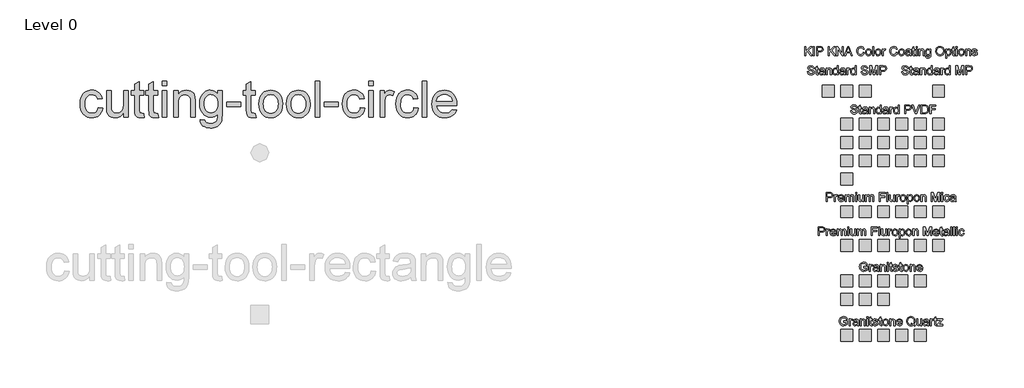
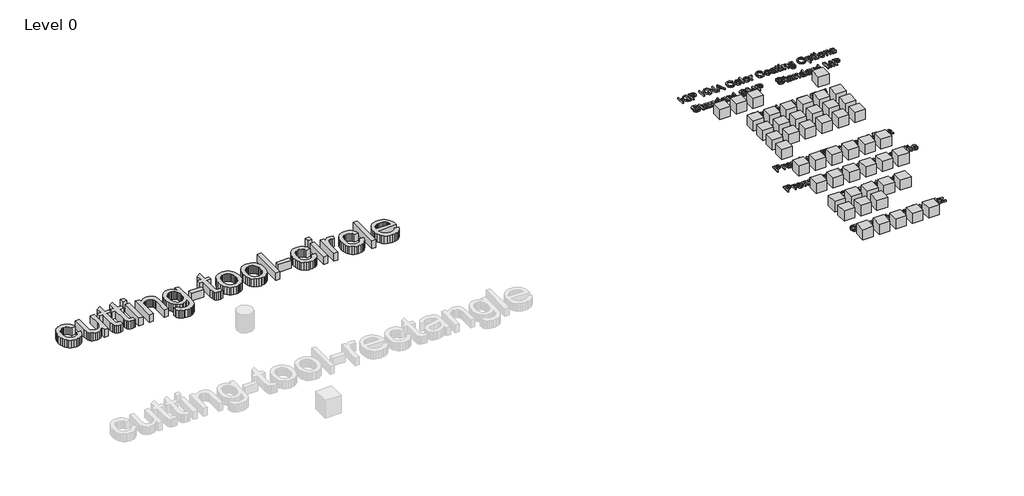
# One storey, part 5 of 5: 50 proxies.
"""IFC4 building model written with IfcOpenShell, lengths in millimetres."""

from ifc_helpers import new_model, si_unit, origin, origin_with_axes, place, context, project, spatial, polyline, outline, extrude, transform, mapped, element, save
from components import ks_color_sample_ks_color_sample_0243efec, r19_kna_color_range_kingspan_quadcore_4278cd54, r19_kna_color_range_kingspan_quadcore_c5814d20, r19_kna_color_range_kingspan_quadcore_91b79b7c

model = new_model("IFC4")

# Units and contexts
model_context = context("Model", 3, world=origin())
ifc_project = project(units=[si_unit("LENGTHUNIT", "METRE", prefix="MILLI")], contexts=[model_context])

# Site, building, storey
site = spatial("IfcSite", under=ifc_project)
building = spatial("IfcBuilding", under=site)
storey = spatial("IfcBuildingStorey", under=building, Name="Level 0", Elevation=0.0)

# Proxies
placement = place(None, origin())
element("IfcBuildingElementProxy", 1, Name="24\" Arial", ObjectType="24\" Arial", at=placement, inside=storey, context=model_context, shape_type="SweptSolid", body=[
    extrude(outline(polyline([(-159.9891887, 13357.6968663), (-83.8474152, 13348.1791446), (-92.1289484, 13312.2506747), (-105.076396, 13280.4583241), (-122.6897579, 13252.8020927), (-144.9690342, 13229.2819807), (-170.9754651, 13210.5114348), (-199.7702911, 13197.1039021), (-231.3535121, 13189.0593824), (-265.7251281, 13186.3778759), (-308.429398, 13190.1189726), (-346.718709, 13201.3422625), (-380.5930612, 13220.0477458), (-410.0524547, 13246.2354225), (-433.8978795, 13279.4126759), (-450.9303258, 13319.0868898), (-461.1497935, 13365.2580641), (-464.5562828, 13417.9261989), (-458.7378318, 13485.684198), (-451.4647682, 13516.1752976), (-441.282479, 13544.4077973), (-428.1212545, 13569.8147233), (-411.9113847, 13591.829102), (-392.6528697, 13610.4509335), (-370.3457095, 13625.6802176), (-345.9983736, 13637.5216018), (-320.6193315, 13645.9797334), (-294.2085833, 13651.0546124), (-266.7661289, 13652.7462387), (-232.9847232, 13650.4225762), (-202.428561, 13643.4515886), (-175.0976424, 13631.833276), (-150.9919674, 13615.5676383), (-130.5205006, 13595.0264616), (-114.0922066, 13570.5815319), (-101.7070854, 13542.2328491), (-93.3651369, 13509.9804133), (-169.5069104, 13500.4626916), (-183.3187605, 13533.6817711), (-204.8265808, 13557.4946646), (-232.8406561, 13571.827015), (-266.1712713, 13576.6044652), (-292.0429298, 13574.2529187), (-315.3771489, 13567.1982793), (-336.1739285, 13555.4405469), (-354.4332686, 13538.9797216), (-369.3000614, 13517.4347227), (-379.9191991, 13490.4244696), (-386.2906817, 13457.9489621), (-388.4145093, 13420.0082005), (-386.337155, 13381.4958179), (-380.1050921, 13348.6438771), (-369.7183206, 13321.4523783), (-355.1768406, 13299.9213214), (-337.2799918, 13283.5580899), (-316.8271143, 13271.8700674), (-293.818208, 13264.8572539), (-268.253273, 13262.5196494), (-228.8253673, 13268.3566897), (-211.7743317, 13275.65299), (-196.4985743, 13285.8678104), (-183.4256489, 13299.1126868), (-172.9831096, 13315.4991549), (-165.1709562, 13335.0272147), (-159.9891887, 13357.6968663)])), origin_with_axes(), (0.0, 0.0, 1.0), 152.4),
    extrude(outline(polyline([(268.3082873, 13195.8955976), (268.3082873, 13272.7809431), (240.7589444, 13234.9796012), (208.6738123, 13207.9786427), (172.052891, 13191.7780676), (130.8961804, 13186.3778759), (93.8105266, 13190.1700931), (59.2901961, 13201.5467448), (30.3280665, 13218.648901), (9.9170149, 13239.6176316), (-3.820478, 13265.0849728), (-12.7619313, 13295.6829609), (-17.2233634, 13366.471016), (-17.2233634, 13643.228517), (58.9184101, 13643.228517), (58.9184101, 13402.3111867), (60.0709467, 13354.1277207), (63.5285566, 13324.6822692), (74.6263688, 13298.787374), (93.6432229, 13279.1013052), (119.3150464, 13266.6650633), (150.377767, 13262.5196494), (183.2250604, 13266.7580098), (213.9531736, 13279.4730912), (239.2903897, 13299.4937675), (255.964992, 13325.6489128), (265.2224635, 13361.4704942), (268.3082873, 13410.4904788), (268.3082873, 13643.228517), (344.4500608, 13643.228517), (344.4500608, 13195.8955976), (268.3082873, 13195.8955976)])), origin_with_axes(), (0.0, 0.0, 1.0), 152.4),
    extrude(outline(polyline([(610.9462681, 13259.396647), (620.4639898, 13193.6648816), (590.3121449, 13188.1996273), (563.5063741, 13186.3778759), (526.9598099, 13189.5380569), (499.7078959, 13199.0186), (480.4493809, 13213.6297899), (467.883014, 13232.1819115), (460.9677943, 13264.043972), (458.6627211, 13318.5849787), (458.6627211, 13567.0867435), (401.556391, 13567.0867435), (401.556391, 13643.228517), (458.6627211, 13643.228517), (458.6627211, 13751.9387444), (534.8044946, 13796.7017792), (534.8044946, 13643.228517), (610.9462681, 13643.228517), (610.9462681, 13567.0867435), (534.8044946, 13567.0867435), (534.8044946, 13320.8156948), (538.8197835, 13281.5550928), (551.8322936, 13267.6502963), (562.81857, 13263.8023111), (577.7829566, 13262.5196494), (610.9462681, 13259.396647)])), origin_with_axes(), (0.0, 0.0, 1.0), 152.4),
    extrude(outline(polyline([(848.8893104, 13259.396647), (858.4070321, 13193.6648816), (828.2551872, 13188.1996273), (801.4494163, 13186.3778759), (764.9028522, 13189.5380569), (737.6509381, 13199.0186), (718.3924231, 13213.6297899), (705.8260562, 13232.1819115), (698.9108366, 13264.043972), (696.6057633, 13318.5849787), (696.6057633, 13567.0867435), (639.4994332, 13567.0867435), (639.4994332, 13643.228517), (696.6057633, 13643.228517), (696.6057633, 13751.9387444), (772.7475369, 13796.7017792), (772.7475369, 13643.228517), (848.8893104, 13643.228517), (848.8893104, 13567.0867435), (772.7475369, 13567.0867435), (772.7475369, 13320.8156948), (776.7628257, 13281.5550928), (789.7753358, 13267.6502963), (800.7616122, 13263.8023111), (815.7259989, 13262.5196494), (848.8893104, 13259.396647)])), origin_with_axes(), (0.0, 0.0, 1.0), 152.4),
    extrude(outline(polyline([(925.0310839, 13728.8880122), (925.0310839, 13805.0297857), (1001.1728574, 13805.0297857), (1001.1728574, 13728.8880122), (925.0310839, 13728.8880122)])), origin_with_axes(), (0.0, 0.0, 1.0), 152.4),
    extrude(outline(polyline([(925.0310839, 13195.8955976), (925.0310839, 13643.228517), (1001.1728574, 13643.228517), (1001.1728574, 13195.8955976), (925.0310839, 13195.8955976)])), origin_with_axes(), (0.0, 0.0, 1.0), 152.4),
    extrude(outline(polyline([(1115.3855177, 13195.8955976), (1115.3855177, 13643.228517), (1191.5272912, 13643.228517), (1191.5272912, 13580.7684684), (1217.9798653, 13612.2587429), (1249.7489793, 13634.7517961), (1286.8346332, 13648.247628), (1329.2368269, 13652.7462387), (1366.7686239, 13649.1213251), (1401.14024, 13638.2465845), (1429.8049408, 13621.4790358), (1450.2159924, 13600.1756978), (1464.0650211, 13574.3923384), (1473.043653, 13544.1847257), (1477.0589419, 13470.571097), (1477.0589419, 13195.8955976), (1400.9171684, 13195.8955976), (1400.9171684, 13460.3098033), (1398.7236309, 13499.681941), (1392.1430187, 13527.6774271), (1380.0042057, 13547.735282), (1361.136066, 13563.2945262), (1336.9513865, 13573.2769804), (1308.8629539, 13576.6044652), (1285.7425118, 13574.7362405), (1264.2672228, 13569.1315665), (1244.4370868, 13559.7904432), (1226.2521039, 13546.7128705), (1211.0599984, 13528.4117045), (1200.2084944, 13503.3998011), (1193.697592, 13471.6771603), (1191.5272912, 13433.2437822), (1191.5272912, 13195.8955976), (1115.3855177, 13195.8955976)])), origin_with_axes(), (0.0, 0.0, 1.0), 152.4),
    extrude(outline(polyline([(1562.7184371, 13157.8247108), (1638.8602106, 13148.3069891), (1647.2625743, 13124.5126849), (1663.5468012, 13108.1541008), (1695.5575761, 13095.4390194), (1737.4578587, 13091.200659), (1782.1465364, 13095.9966984), (1800.1967468, 13101.9917477), (1815.3842051, 13110.3848168), (1838.4349373, 13133.435549), (1852.5628054, 13164.2194301), (1856.6896301, 13196.973777), (1857.7678095, 13253.0019277), (1832.4305933, 13228.0179083), (1804.1562678, 13210.1721801), (1772.9448328, 13199.4647432), (1738.7962884, 13195.8955976), (1697.0493675, 13200.0503062), (1660.2936737, 13212.5144319), (1628.529207, 13233.2879749), (1601.7559675, 13262.370935), (1580.5130447, 13297.2630514), (1565.3395284, 13335.4640633), (1556.2354187, 13376.9739706), (1553.2007154, 13421.7927733), (1558.6473804, 13483.267589), (1574.9873752, 13539.7976508), (1587.0983043, 13565.2882287), (1601.6444317, 13587.7022774), (1618.6257574, 13607.0397969), (1638.0422814, 13623.3007872), (1659.582633, 13636.1831722), (1682.9354413, 13645.3848758), (1708.1007064, 13650.905898), (1735.0784283, 13652.7462387), (1770.6862328, 13648.5822354), (1803.0037312, 13636.0902257), (1832.0309234, 13615.2702095), (1857.7678095, 13586.1221869), (1857.7678095, 13643.228517), (1933.909583, 13643.228517), (1933.909583, 13257.0172166), (1928.7045789, 13167.8443436), (1922.1983239, 13134.6763848), (1913.0895668, 13109.1207444), (1901.1598834, 13088.5098578), (1886.1908494, 13070.1761605), (1868.1824649, 13054.1196525), (1847.1347298, 13040.3403337), (1823.261421, 13029.2797001), (1796.7763156, 13021.3792475), (1767.6794135, 13016.638976), (1735.9707147, 13015.0588855), (1698.6666366, 13017.2849542), (1665.1268918, 13023.9631603), (1635.3514802, 13035.0935037), (1609.3404019, 13050.6759846), (1588.3298454, 13070.7291922), (1573.5559991, 13095.2717157), (1565.018863, 13124.3035553), (1562.7184371, 13157.8247108)]), holes=[polyline([(1629.3424889, 13426.9977774), (1631.37337, 13389.3497972), (1637.4660131, 13357.1577766), (1647.6204183, 13330.4217156), (1661.8365856, 13309.1416142), (1679.1199875, 13292.9085079), (1698.4760963, 13281.3134319), (1719.904912, 13274.3563863), (1743.4064348, 13272.0373711), (1766.6755913, 13274.3424443), (1788.0021659, 13281.257664), (1807.3861587, 13292.7830301), (1824.8275696, 13308.9185426), (1839.2389245, 13329.9895144), (1849.5327495, 13356.3212581), (1855.7090445, 13387.9137737), (1857.7678095, 13424.7670613), (1855.6486293, 13460.0820843), (1849.2910886, 13490.7776663), (1838.6951875, 13516.8538071), (1823.860926, 13538.3105068), (1806.0430817, 13555.0641136), (1786.4964326, 13567.0309756), (1765.2209786, 13574.2110928), (1742.2167196, 13576.6044652), (1719.5981886, 13574.2482714), (1698.7363465, 13567.17969), (1679.6311932, 13555.398721), (1662.2827288, 13538.9053644), (1647.8713739, 13517.7739774), (1637.5775489, 13492.0789173), (1631.4012539, 13461.8201839), (1629.3424889, 13426.9977774)])]), origin_with_axes(), (0.0, 0.0, 1.0), 152.4),
    extrude(outline(polyline([(2010.0513565, 13376.7323097), (2010.0513565, 13452.8740832), (2247.9943987, 13452.8740832), (2247.9943987, 13376.7323097), (2010.0513565, 13376.7323097)])), origin_with_axes(), (0.0, 0.0, 1.0), 152.4),
    extrude(outline(polyline([(2495.4551627, 13259.396647), (2504.9728844, 13193.6648816), (2474.8210395, 13188.1996273), (2448.0152686, 13186.3778759), (2411.4687045, 13189.5380569), (2384.2167904, 13199.0186), (2364.9582754, 13213.6297899), (2352.3919085, 13232.1819115), (2345.4766889, 13264.043972), (2343.1716156, 13318.5849787), (2343.1716156, 13567.0867435), (2286.0652855, 13567.0867435), (2286.0652855, 13643.228517), (2343.1716156, 13643.228517), (2343.1716156, 13751.9387444), (2419.3133892, 13796.7017792), (2419.3133892, 13643.228517), (2495.4551627, 13643.228517), (2495.4551627, 13567.0867435), (2419.3133892, 13567.0867435), (2419.3133892, 13320.8156948), (2423.328678, 13281.5550928), (2436.3411881, 13267.6502963), (2447.3274645, 13263.8023111), (2462.2918512, 13262.5196494), (2495.4551627, 13259.396647)])), origin_with_axes(), (0.0, 0.0, 1.0), 152.4),
    extrude(outline(polyline([(2552.5614928, 13419.5620573), (2556.6790228, 13477.4956113), (2569.0316128, 13527.4171769), (2589.6192627, 13569.3267541), (2618.4419726, 13603.224343), (2647.4598702, 13624.8901724), (2679.4892344, 13640.3657648), (2714.5300652, 13649.6511202), (2752.5823627, 13652.7462387), (2794.5895338, 13648.9772581), (2832.5721214, 13637.6703162), (2866.5301254, 13618.8254132), (2896.4635461, 13592.4425489), (2920.8945338, 13559.4140098), (2938.3452393, 13520.6320823), (2948.8156627, 13476.0967664), (2952.3058038, 13425.8080621), (2950.7628919, 13385.0510215), (2946.1341561, 13348.885538), (2938.4195965, 13317.3116117), (2927.6192131, 13290.3292425), (2913.8677783, 13267.0229074), (2897.3000646, 13246.4770834), (2877.9160718, 13228.6917704), (2855.7158001, 13213.6669685), (2831.5636518, 13201.7279905), (2806.3240295, 13193.2001491), (2779.9969331, 13188.0834442), (2752.5823627, 13186.3778759), (2709.9617447, 13190.1329145), (2671.6259604, 13201.3980304), (2637.5750098, 13220.1732236), (2607.8088929, 13246.4584941), (2583.6381554, 13279.8076986), (2566.3733428, 13319.7746939), (2556.0144553, 13366.3594802), (2552.5614928, 13419.5620573)]), holes=[polyline([(2628.7032663, 13419.7107717), (2630.9060984, 13382.7784796), (2637.5145946, 13350.8002359), (2648.528755, 13323.7760408), (2663.9485795, 13301.7058942), (2682.7051833, 13284.5619121), (2703.7296818, 13272.3162106), (2727.022075, 13264.9687897), (2752.5823627, 13262.5196494), (2778.0125253, 13264.9827317), (2801.211972, 13272.3719785), (2822.1807026, 13284.6873899), (2840.9187171, 13301.9289658), (2856.3385416, 13324.2175367), (2867.352702, 13351.673933), (2873.9611982, 13384.2981549), (2876.1640303, 13422.0902021), (2873.9472562, 13457.8513683), (2867.2969341, 13488.9930934), (2856.2130638, 13515.5153775), (2840.6956455, 13537.4182204), (2821.8879211, 13554.5622025), (2800.9331325, 13566.807904), (2777.8312797, 13574.1553249), (2752.5823627, 13576.6044652), (2727.022075, 13574.1646195), (2703.7296818, 13566.8450826), (2682.7051833, 13554.6458543), (2663.9485795, 13537.5669348), (2648.528755, 13515.5618507), (2637.5145946, 13488.5841288), (2630.9060984, 13456.6337692), (2628.7032663, 13419.7107717)])]), origin_with_axes(), (0.0, 0.0, 1.0), 152.4),
    extrude(outline(polyline([(3018.9298556, 13419.5620573), (3023.0473856, 13477.4956113), (3035.3999756, 13527.4171769), (3055.9876255, 13569.3267541), (3084.8103354, 13603.224343), (3113.828233, 13624.8901724), (3145.8575972, 13640.3657648), (3180.898428, 13649.6511202), (3218.9507255, 13652.7462387), (3260.9578966, 13648.9772581), (3298.9404841, 13637.6703162), (3332.8984882, 13618.8254132), (3362.8319088, 13592.4425489), (3387.2628966, 13559.4140098), (3404.7136021, 13520.6320823), (3415.1840255, 13476.0967664), (3418.6741666, 13425.8080621), (3417.1312547, 13385.0510215), (3412.5025189, 13348.885538), (3404.7879593, 13317.3116117), (3393.9875759, 13290.3292425), (3380.2361411, 13267.0229074), (3363.6684274, 13246.4770834), (3344.2844346, 13228.6917704), (3322.0841629, 13213.6669685), (3297.9320146, 13201.7279905), (3272.6923923, 13193.2001491), (3246.3652959, 13188.0834442), (3218.9507255, 13186.3778759), (3176.3301075, 13190.1329145), (3137.9943232, 13201.3980304), (3103.9433726, 13220.1732236), (3074.1772557, 13246.4584941), (3050.0065182, 13279.8076986), (3032.7417056, 13319.7746939), (3022.3828181, 13366.3594802), (3018.9298556, 13419.5620573)]), holes=[polyline([(3095.0716291, 13419.7107717), (3097.2744612, 13382.7784796), (3103.8829574, 13350.8002359), (3114.8971178, 13323.7760408), (3130.3169423, 13301.7058942), (3149.0735461, 13284.5619121), (3170.0980446, 13272.3162106), (3193.3904378, 13264.9687897), (3218.9507255, 13262.5196494), (3244.3808881, 13264.9827317), (3267.5803347, 13272.3719785), (3288.5490653, 13284.6873899), (3307.2870799, 13301.9289658), (3322.7069044, 13324.2175367), (3333.7210648, 13351.673933), (3340.329561, 13384.2981549), (3342.5323931, 13422.0902021), (3340.315619, 13457.8513683), (3333.6652969, 13488.9930934), (3322.5814266, 13515.5153775), (3307.0640083, 13537.4182204), (3288.2562839, 13554.5622025), (3267.3014952, 13566.807904), (3244.1996425, 13574.1553249), (3218.9507255, 13576.6044652), (3193.3904378, 13574.1646195), (3170.0980446, 13566.8450826), (3149.0735461, 13554.6458543), (3130.3169423, 13537.5669348), (3114.8971178, 13515.5618507), (3103.8829574, 13488.5841288), (3097.2744612, 13456.6337692), (3095.0716291, 13419.7107717)])]), origin_with_axes(), (0.0, 0.0, 1.0), 152.4),
    extrude(outline(polyline([(3504.3336618, 13195.8955976), (3504.3336618, 13805.0297857), (3580.4754353, 13805.0297857), (3580.4754353, 13195.8955976), (3504.3336618, 13195.8955976)])), origin_with_axes(), (0.0, 0.0, 1.0), 152.4),
    extrude(outline(polyline([(3656.6172088, 13376.7323097), (3656.6172088, 13452.8740832), (3894.5602511, 13452.8740832), (3894.5602511, 13376.7323097), (3656.6172088, 13376.7323097)])), origin_with_axes(), (0.0, 0.0, 1.0), 152.4),
    extrude(outline(polyline([(4265.7513969, 13357.6968663), (4341.8931705, 13348.1791446), (4333.6116372, 13312.2506747), (4320.6641897, 13280.4583241), (4303.0508278, 13252.8020927), (4280.7715515, 13229.2819807), (4254.7651205, 13210.5114348), (4225.9702946, 13197.1039021), (4194.3870736, 13189.0593824), (4160.0154576, 13186.3778759), (4117.3111877, 13190.1189726), (4079.0218767, 13201.3422625), (4045.1475244, 13220.0477458), (4015.688131, 13246.2354225), (3991.8427062, 13279.4126759), (3974.8102599, 13319.0868898), (3964.5907921, 13365.2580641), (3961.1843029, 13417.9261989), (3967.0027538, 13485.684198), (3974.2758175, 13516.1752976), (3984.4581067, 13544.4077973), (3997.6193312, 13569.8147233), (4013.829201, 13591.829102), (4033.087716, 13610.4509335), (4055.3948762, 13625.6802176), (4079.7422121, 13637.5216018), (4105.1212541, 13645.9797334), (4131.5320024, 13651.0546124), (4158.9744567, 13652.7462387), (4192.7558625, 13650.4225762), (4223.3120246, 13643.4515886), (4250.6429432, 13631.833276), (4274.7486182, 13615.5676383), (4295.2200851, 13595.0264616), (4311.6483791, 13570.5815319), (4324.0335003, 13542.2328491), (4332.3754488, 13509.9804133), (4256.2336753, 13500.4626916), (4242.4218252, 13533.6817711), (4220.9140049, 13557.4946646), (4192.8999296, 13571.827015), (4159.5693143, 13576.6044652), (4133.6976558, 13574.2529187), (4110.3634368, 13567.1982793), (4089.5666572, 13555.4405469), (4071.3073171, 13538.9797216), (4056.4405243, 13517.4347227), (4045.8213866, 13490.4244696), (4039.4499039, 13457.9489621), (4037.3260764, 13420.0082005), (4039.4034307, 13381.4958179), (4045.6354936, 13348.6438771), (4056.022265, 13321.4523783), (4070.5637451, 13299.9213214), (4088.4605939, 13283.5580899), (4108.9134714, 13271.8700674), (4131.9223777, 13264.8572539), (4157.4873127, 13262.5196494), (4196.9152184, 13268.3566897), (4213.966254, 13275.65299), (4229.2420114, 13285.8678104), (4242.3149368, 13299.1126868), (4252.7574761, 13315.4991549), (4260.5696295, 13335.0272147), (4265.7513969, 13357.6968663)])), origin_with_axes(), (0.0, 0.0, 1.0), 152.4),
    extrude(outline(polyline([(4408.5172223, 13728.8880122), (4408.5172223, 13805.0297857), (4484.6589958, 13805.0297857), (4484.6589958, 13728.8880122), (4408.5172223, 13728.8880122)])), origin_with_axes(), (0.0, 0.0, 1.0), 152.4),
    extrude(outline(polyline([(4408.5172223, 13195.8955976), (4408.5172223, 13643.228517), (4484.6589958, 13643.228517), (4484.6589958, 13195.8955976), (4408.5172223, 13195.8955976)])), origin_with_axes(), (0.0, 0.0, 1.0), 152.4),
    extrude(outline(polyline([(4598.8716561, 13195.8955976), (4598.8716561, 13643.228517), (4665.4957079, 13643.228517), (4665.4957079, 13577.0506084), (4690.1079413, 13615.4189239), (4712.7868876, 13638.0235129), (4735.540191, 13649.0655572), (4760.375496, 13652.7462387), (4798.2976684, 13646.8720198), (4836.8146983, 13629.2493633), (4811.3845357, 13560.989453), (4784.6159434, 13572.7007121), (4757.8473512, 13576.6044652), (4735.1126371, 13572.8494265), (4714.794532, 13561.5843106), (4698.3801799, 13543.6642253), (4687.3567249, 13519.9442782), (4678.0992534, 13477.4119594), (4675.0134296, 13431.0130662), (4675.0134296, 13195.8955976), (4598.8716561, 13195.8955976)])), origin_with_axes(), (0.0, 0.0, 1.0), 152.4),
    extrude(outline(polyline([(5169.9349575, 13357.6968663), (5246.076731, 13348.1791446), (5237.7951978, 13312.2506747), (5224.8477502, 13280.4583241), (5207.2343883, 13252.8020927), (5184.955112, 13229.2819807), (5158.9486811, 13210.5114348), (5130.1538551, 13197.1039021), (5098.5706341, 13189.0593824), (5064.1990181, 13186.3778759), (5021.4947482, 13190.1189726), (4983.2054372, 13201.3422625), (4949.331085, 13220.0477458), (4919.8716915, 13246.2354225), (4896.0262667, 13279.4126759), (4878.9938204, 13319.0868898), (4868.7743527, 13365.2580641), (4865.3678634, 13417.9261989), (4871.1863144, 13485.684198), (4878.459378, 13516.1752976), (4888.6416672, 13544.4077973), (4901.8028917, 13569.8147233), (4918.0127615, 13591.829102), (4937.2712765, 13610.4509335), (4959.5784367, 13625.6802176), (4983.9257726, 13637.5216018), (5009.3048147, 13645.9797334), (5035.7155629, 13651.0546124), (5063.1580173, 13652.7462387), (5096.939423, 13650.4225762), (5127.4955852, 13643.4515886), (5154.8265037, 13631.833276), (5178.9321787, 13615.5676383), (5199.4036456, 13595.0264616), (5215.8319396, 13570.5815319), (5228.2170608, 13542.2328491), (5236.5590093, 13509.9804133), (5160.4172358, 13500.4626916), (5146.6053857, 13533.6817711), (5125.0975654, 13557.4946646), (5097.0834901, 13571.827015), (5063.7528749, 13576.6044652), (5037.8812163, 13574.2529187), (5014.5469973, 13567.1982793), (4993.7502177, 13555.4405469), (4975.4908776, 13538.9797216), (4960.6240848, 13517.4347227), (4950.0049471, 13490.4244696), (4943.6334645, 13457.9489621), (4941.5096369, 13420.0082005), (4943.5869912, 13381.4958179), (4949.8190541, 13348.6438771), (4960.2058256, 13321.4523783), (4974.7473056, 13299.9213214), (4992.6441544, 13283.5580899), (5013.0970319, 13271.8700674), (5036.1059382, 13264.8572539), (5061.6708732, 13262.5196494), (5101.0987789, 13268.3566897), (5118.1498145, 13275.65299), (5133.4255719, 13285.8678104), (5146.4984973, 13299.1126868), (5156.9410366, 13315.4991549), (5164.75319, 13335.0272147), (5169.9349575, 13357.6968663)])), origin_with_axes(), (0.0, 0.0, 1.0), 152.4),
    extrude(outline(polyline([(5312.7007828, 13195.8955976), (5312.7007828, 13805.0297857), (5388.8425563, 13805.0297857), (5388.8425563, 13195.8955976), (5312.7007828, 13195.8955976)])), origin_with_axes(), (0.0, 0.0, 1.0), 152.4),
    extrude(outline(polyline([(5816.247746, 13329.1437012), (5890.9023755, 13319.6259795), (5879.4560139, 13289.7250902), (5864.0036581, 13263.3747572), (5844.5453081, 13240.5749806), (5821.080964, 13221.3257602), (5793.8522866, 13206.0360608), (5763.1009368, 13195.114847), (5728.8269146, 13188.5621187), (5691.03022, 13186.3778759), (5643.7855136, 13190.1468565), (5601.6900433, 13201.4537983), (5564.7438092, 13220.2987014), (5532.9468113, 13246.6815657), (5507.3772289, 13279.8681138), (5489.1132415, 13319.1240684), (5478.154849, 13364.4494296), (5474.5020515, 13415.8441973), (5478.1920276, 13468.9817118), (5489.2619559, 13515.8174536), (5507.7118363, 13556.3514226), (5533.5416689, 13590.5836189), (5565.255015, 13617.7797651), (5601.3554359, 13637.2055837), (5641.8429317, 13648.8610749), (5686.7175023, 13652.7462387), (5730.1467549, 13648.8703696), (5769.4212988, 13637.2427623), (5804.5411342, 13617.8634169), (5835.5062609, 13590.7323333), (5860.7830618, 13556.5744942), (5878.8379196, 13516.1148824), (5889.6708343, 13469.3534978), (5893.2818059, 13416.2903405), (5892.8356627, 13395.7677531), (5550.643825, 13395.7677531), (5555.0541365, 13365.3835419), (5563.8236389, 13338.7729587), (5576.9523321, 13315.9360035), (5594.4402163, 13296.8726761), (5615.3206477, 13281.8432269), (5638.6269828, 13271.1079061), (5664.3592215, 13264.6667136), (5692.517364, 13262.5196494), (5733.0420384, 13266.4977596), (5767.1719935, 13278.4320904), (5794.9072294, 13299.0662136), (5816.247746, 13329.1437012)]), holes=[polyline([(5550.643825, 13471.9095266), (5817.1400324, 13471.9095266), (5806.8415601, 13512.1367722), (5797.9837585, 13527.9562666), (5786.6535801, 13540.9130088), (5765.8893318, 13556.528021), (5742.2623313, 13567.6816011), (5715.7725785, 13574.3737491), (5686.4200735, 13576.6044652), (5659.646834, 13574.8245397), (5635.0950157, 13569.4847632), (5612.7646189, 13560.5851357), (5592.6556434, 13548.1256573), (5575.7812062, 13532.6825962), (5563.1544241, 13514.8322207), (5554.775297, 13494.5745308), (5550.643825, 13471.9095266)])]), origin_with_axes(), (0.0, 0.0, 1.0), 152.4),
])
ks_color_sample_ks_color_sample_shape = ks_color_sample_ks_color_sample_0243efec(model_context)
element("IfcBuildingElementProxy", 2, Name="KS_Color Sample : KS_Color Sample", ObjectType="KS_Color Sample : KS_Color Sample", at=placement, inside=storey, context=model_context, shape_type="MappedRepresentation", body=[
    mapped(ks_color_sample_ks_color_sample_shape, transform((12166.5853815, 13639.2290821, 0.0), x_axis=(1.0, 0.0, 0.0), y_axis=(0.0, 1.0, 0.0), z_axis=(0.0, 0.0, 1.0))),
])
element("IfcBuildingElementProxy", 3, Name="KS_Color Sample : KS_Color Sample", ObjectType="KS_Color Sample : KS_Color Sample", at=placement, inside=storey, context=model_context, shape_type="MappedRepresentation", body=[
    mapped(ks_color_sample_ks_color_sample_shape, transform((12476.5853815, 13639.2290821, 0.0), x_axis=(1.0, 0.0, 0.0), y_axis=(0.0, 1.0, 0.0), z_axis=(0.0, 0.0, 1.0))),
])
element("IfcBuildingElementProxy", 4, Name="KS_Color Sample : KS_Color Sample", ObjectType="KS_Color Sample : KS_Color Sample", at=placement, inside=storey, context=model_context, shape_type="MappedRepresentation", body=[
    mapped(ks_color_sample_ks_color_sample_shape, transform((12786.5853815, 13639.2290821, 0.0), x_axis=(1.0, 0.0, 0.0), y_axis=(0.0, 1.0, 0.0), z_axis=(0.0, 0.0, 1.0))),
])
element("IfcBuildingElementProxy", 5, Name="KS_Color Sample : KS_Color Sample", ObjectType="KS_Color Sample : KS_Color Sample", at=placement, inside=storey, context=model_context, shape_type="MappedRepresentation", body=[
    mapped(ks_color_sample_ks_color_sample_shape, transform((14026.5853815, 13639.2290821, 0.0), x_axis=(1.0, 0.0, 0.0), y_axis=(0.0, 1.0, 0.0), z_axis=(0.0, 0.0, 1.0))),
])
element("IfcBuildingElementProxy", 6, Name="KS_Color Sample : KS_Color Sample", ObjectType="KS_Color Sample : KS_Color Sample", at=placement, inside=storey, context=model_context, shape_type="MappedRepresentation", body=[
    mapped(ks_color_sample_ks_color_sample_shape, transform((12786.5853815, 13079.2290821, 0.0), x_axis=(1.0, 0.0, 0.0), y_axis=(0.0, 1.0, 0.0), z_axis=(0.0, 0.0, 1.0))),
])
element("IfcBuildingElementProxy", 7, Name="KS_Color Sample : KS_Color Sample", ObjectType="KS_Color Sample : KS_Color Sample", at=placement, inside=storey, context=model_context, shape_type="MappedRepresentation", body=[
    mapped(ks_color_sample_ks_color_sample_shape, transform((13096.5853815, 13079.2290821, 0.0), x_axis=(1.0, 0.0, 0.0), y_axis=(0.0, 1.0, 0.0), z_axis=(0.0, 0.0, 1.0))),
])
element("IfcBuildingElementProxy", 8, Name="KS_Color Sample : KS_Color Sample", ObjectType="KS_Color Sample : KS_Color Sample", at=placement, inside=storey, context=model_context, shape_type="MappedRepresentation", body=[
    mapped(ks_color_sample_ks_color_sample_shape, transform((13406.5853815, 13079.2290821, 0.0), x_axis=(1.0, 0.0, 0.0), y_axis=(0.0, 1.0, 0.0), z_axis=(0.0, 0.0, 1.0))),
])
element("IfcBuildingElementProxy", 9, Name="KS_Color Sample : KS_Color Sample", ObjectType="KS_Color Sample : KS_Color Sample", at=placement, inside=storey, context=model_context, shape_type="MappedRepresentation", body=[
    mapped(ks_color_sample_ks_color_sample_shape, transform((13716.5853815, 13079.2290821, 0.0), x_axis=(1.0, 0.0, 0.0), y_axis=(0.0, 1.0, 0.0), z_axis=(0.0, 0.0, 1.0))),
])
element("IfcBuildingElementProxy", 10, Name="KS_Color Sample : KS_Color Sample", ObjectType="KS_Color Sample : KS_Color Sample", at=placement, inside=storey, context=model_context, shape_type="MappedRepresentation", body=[
    mapped(ks_color_sample_ks_color_sample_shape, transform((12476.5853815, 11599.2290821, 0.0), x_axis=(1.0, 0.0, 0.0), y_axis=(0.0, 1.0, 0.0), z_axis=(0.0, 0.0, 1.0))),
])
element("IfcBuildingElementProxy", 11, Name="KS_Color Sample : KS_Color Sample", ObjectType="KS_Color Sample : KS_Color Sample", at=placement, inside=storey, context=model_context, shape_type="MappedRepresentation", body=[
    mapped(ks_color_sample_ks_color_sample_shape, transform((12786.5853815, 11599.2290821, 0.0), x_axis=(1.0, 0.0, 0.0), y_axis=(0.0, 1.0, 0.0), z_axis=(0.0, 0.0, 1.0))),
])
element("IfcBuildingElementProxy", 12, Name="KS_Color Sample : KS_Color Sample", ObjectType="KS_Color Sample : KS_Color Sample", at=placement, inside=storey, context=model_context, shape_type="MappedRepresentation", body=[
    mapped(ks_color_sample_ks_color_sample_shape, transform((13096.5853815, 11599.2290821, 0.0), x_axis=(1.0, 0.0, 0.0), y_axis=(0.0, 1.0, 0.0), z_axis=(0.0, 0.0, 1.0))),
])
element("IfcBuildingElementProxy", 13, Name="KS_Color Sample : KS_Color Sample", ObjectType="KS_Color Sample : KS_Color Sample", at=placement, inside=storey, context=model_context, shape_type="MappedRepresentation", body=[
    mapped(ks_color_sample_ks_color_sample_shape, transform((13406.5853815, 11599.2290821, 0.0), x_axis=(1.0, 0.0, 0.0), y_axis=(0.0, 1.0, 0.0), z_axis=(0.0, 0.0, 1.0))),
])
element("IfcBuildingElementProxy", 14, Name="KS_Color Sample : KS_Color Sample", ObjectType="KS_Color Sample : KS_Color Sample", at=placement, inside=storey, context=model_context, shape_type="MappedRepresentation", body=[
    mapped(ks_color_sample_ks_color_sample_shape, transform((14026.5853815, 13079.2290821, 0.0), x_axis=(1.0, 0.0, 0.0), y_axis=(0.0, 1.0, 0.0), z_axis=(0.0, 0.0, 1.0))),
])
element("IfcBuildingElementProxy", 15, Name="KS_Color Sample : KS_Color Sample", ObjectType="KS_Color Sample : KS_Color Sample", at=placement, inside=storey, context=model_context, shape_type="MappedRepresentation", body=[
    mapped(ks_color_sample_ks_color_sample_shape, transform((13716.5853815, 12769.2290821, 0.0), x_axis=(1.0, 0.0, 0.0), y_axis=(0.0, 1.0, 0.0), z_axis=(0.0, 0.0, 1.0))),
])
element("IfcBuildingElementProxy", 16, Name="KS_Color Sample : KS_Color Sample", ObjectType="KS_Color Sample : KS_Color Sample", at=placement, inside=storey, context=model_context, shape_type="MappedRepresentation", body=[
    mapped(ks_color_sample_ks_color_sample_shape, transform((14026.5853815, 12769.2290821, 0.0), x_axis=(1.0, 0.0, 0.0), y_axis=(0.0, 1.0, 0.0), z_axis=(0.0, 0.0, 1.0))),
])
element("IfcBuildingElementProxy", 17, Name="KS_Color Sample : KS_Color Sample", ObjectType="KS_Color Sample : KS_Color Sample", at=placement, inside=storey, context=model_context, shape_type="MappedRepresentation", body=[
    mapped(ks_color_sample_ks_color_sample_shape, transform((12476.5853815, 12769.2290821, 0.0), x_axis=(1.0, 0.0, 0.0), y_axis=(0.0, 1.0, 0.0), z_axis=(0.0, 0.0, 1.0))),
])
element("IfcBuildingElementProxy", 18, Name="KS_Color Sample : KS_Color Sample", ObjectType="KS_Color Sample : KS_Color Sample", at=placement, inside=storey, context=model_context, shape_type="MappedRepresentation", body=[
    mapped(ks_color_sample_ks_color_sample_shape, transform((13096.5853815, 12769.2290821, 0.0), x_axis=(1.0, 0.0, 0.0), y_axis=(0.0, 1.0, 0.0), z_axis=(0.0, 0.0, 1.0))),
])
element("IfcBuildingElementProxy", 19, Name="KS_Color Sample : KS_Color Sample", ObjectType="KS_Color Sample : KS_Color Sample", at=placement, inside=storey, context=model_context, shape_type="MappedRepresentation", body=[
    mapped(ks_color_sample_ks_color_sample_shape, transform((13406.5853815, 12769.2290821, 0.0), x_axis=(1.0, 0.0, 0.0), y_axis=(0.0, 1.0, 0.0), z_axis=(0.0, 0.0, 1.0))),
])
element("IfcBuildingElementProxy", 20, Name="KS_Color Sample : KS_Color Sample", ObjectType="KS_Color Sample : KS_Color Sample", at=placement, inside=storey, context=model_context, shape_type="MappedRepresentation", body=[
    mapped(ks_color_sample_ks_color_sample_shape, transform((12476.5853815, 12459.2290821, 0.0), x_axis=(1.0, 0.0, 0.0), y_axis=(0.0, 1.0, 0.0), z_axis=(0.0, 0.0, 1.0))),
])
element("IfcBuildingElementProxy", 21, Name="KS_Color Sample : KS_Color Sample", ObjectType="KS_Color Sample : KS_Color Sample", at=placement, inside=storey, context=model_context, shape_type="MappedRepresentation", body=[
    mapped(ks_color_sample_ks_color_sample_shape, transform((12786.5853815, 12459.2290821, 0.0), x_axis=(1.0, 0.0, 0.0), y_axis=(0.0, 1.0, 0.0), z_axis=(0.0, 0.0, 1.0))),
])
element("IfcBuildingElementProxy", 22, Name="KS_Color Sample : KS_Color Sample", ObjectType="KS_Color Sample : KS_Color Sample", at=placement, inside=storey, context=model_context, shape_type="MappedRepresentation", body=[
    mapped(ks_color_sample_ks_color_sample_shape, transform((13096.5853815, 12459.2290821, 0.0), x_axis=(1.0, 0.0, 0.0), y_axis=(0.0, 1.0, 0.0), z_axis=(0.0, 0.0, 1.0))),
])
element("IfcBuildingElementProxy", 23, Name="KS_Color Sample : KS_Color Sample", ObjectType="KS_Color Sample : KS_Color Sample", at=placement, inside=storey, context=model_context, shape_type="MappedRepresentation", body=[
    mapped(ks_color_sample_ks_color_sample_shape, transform((13406.5853815, 12459.2290821, 0.0), x_axis=(1.0, 0.0, 0.0), y_axis=(0.0, 1.0, 0.0), z_axis=(0.0, 0.0, 1.0))),
])
element("IfcBuildingElementProxy", 24, Name="KS_Color Sample : KS_Color Sample", ObjectType="KS_Color Sample : KS_Color Sample", at=placement, inside=storey, context=model_context, shape_type="MappedRepresentation", body=[
    mapped(ks_color_sample_ks_color_sample_shape, transform((13716.5853815, 12459.2290821, 0.0), x_axis=(1.0, 0.0, 0.0), y_axis=(0.0, 1.0, 0.0), z_axis=(0.0, 0.0, 1.0))),
])
element("IfcBuildingElementProxy", 25, Name="KS_Color Sample : KS_Color Sample", ObjectType="KS_Color Sample : KS_Color Sample", at=placement, inside=storey, context=model_context, shape_type="MappedRepresentation", body=[
    mapped(ks_color_sample_ks_color_sample_shape, transform((14026.5853815, 12459.2290821, 0.0), x_axis=(1.0, 0.0, 0.0), y_axis=(0.0, 1.0, 0.0), z_axis=(0.0, 0.0, 1.0))),
])
element("IfcBuildingElementProxy", 26, Name="KS_Color Sample : KS_Color Sample", ObjectType="KS_Color Sample : KS_Color Sample", at=placement, inside=storey, context=model_context, shape_type="MappedRepresentation", body=[
    mapped(ks_color_sample_ks_color_sample_shape, transform((12476.5853815, 12149.2290821, 0.0), x_axis=(1.0, 0.0, 0.0), y_axis=(0.0, 1.0, 0.0), z_axis=(0.0, 0.0, 1.0))),
])
element("IfcBuildingElementProxy", 27, Name="KS_Color Sample : KS_Color Sample", ObjectType="KS_Color Sample : KS_Color Sample", at=placement, inside=storey, context=model_context, shape_type="MappedRepresentation", body=[
    mapped(ks_color_sample_ks_color_sample_shape, transform((13716.5853815, 11599.2290821, 0.0), x_axis=(1.0, 0.0, 0.0), y_axis=(0.0, 1.0, 0.0), z_axis=(0.0, 0.0, 1.0))),
])
element("IfcBuildingElementProxy", 28, Name="KS_Color Sample : KS_Color Sample", ObjectType="KS_Color Sample : KS_Color Sample", at=placement, inside=storey, context=model_context, shape_type="MappedRepresentation", body=[
    mapped(ks_color_sample_ks_color_sample_shape, transform((14026.5853815, 11599.2290821, 0.0), x_axis=(1.0, 0.0, 0.0), y_axis=(0.0, 1.0, 0.0), z_axis=(0.0, 0.0, 1.0))),
])
element("IfcBuildingElementProxy", 29, Name="KS_Color Sample : KS_Color Sample", ObjectType="KS_Color Sample : KS_Color Sample", at=placement, inside=storey, context=model_context, shape_type="MappedRepresentation", body=[
    mapped(ks_color_sample_ks_color_sample_shape, transform((12476.5853815, 11029.2290821, 0.0), x_axis=(1.0, 0.0, 0.0), y_axis=(0.0, 1.0, 0.0), z_axis=(0.0, 0.0, 1.0))),
])
element("IfcBuildingElementProxy", 30, Name="KS_Color Sample : KS_Color Sample", ObjectType="KS_Color Sample : KS_Color Sample", at=placement, inside=storey, context=model_context, shape_type="MappedRepresentation", body=[
    mapped(ks_color_sample_ks_color_sample_shape, transform((12786.5853815, 11029.2290821, 0.0), x_axis=(1.0, 0.0, 0.0), y_axis=(0.0, 1.0, 0.0), z_axis=(0.0, 0.0, 1.0))),
])
element("IfcBuildingElementProxy", 31, Name="KS_Color Sample : KS_Color Sample", ObjectType="KS_Color Sample : KS_Color Sample", at=placement, inside=storey, context=model_context, shape_type="MappedRepresentation", body=[
    mapped(ks_color_sample_ks_color_sample_shape, transform((13096.5853815, 11029.2290821, 0.0), x_axis=(1.0, 0.0, 0.0), y_axis=(0.0, 1.0, 0.0), z_axis=(0.0, 0.0, 1.0))),
])
element("IfcBuildingElementProxy", 32, Name="KS_Color Sample : KS_Color Sample", ObjectType="KS_Color Sample : KS_Color Sample", at=placement, inside=storey, context=model_context, shape_type="MappedRepresentation", body=[
    mapped(ks_color_sample_ks_color_sample_shape, transform((13406.5853815, 11029.2290821, 0.0), x_axis=(1.0, 0.0, 0.0), y_axis=(0.0, 1.0, 0.0), z_axis=(0.0, 0.0, 1.0))),
])
element("IfcBuildingElementProxy", 33, Name="KS_Color Sample : KS_Color Sample", ObjectType="KS_Color Sample : KS_Color Sample", at=placement, inside=storey, context=model_context, shape_type="MappedRepresentation", body=[
    mapped(ks_color_sample_ks_color_sample_shape, transform((13716.5853815, 11029.2290821, 0.0), x_axis=(1.0, 0.0, 0.0), y_axis=(0.0, 1.0, 0.0), z_axis=(0.0, 0.0, 1.0))),
])
element("IfcBuildingElementProxy", 34, Name="KS_Color Sample : KS_Color Sample", ObjectType="KS_Color Sample : KS_Color Sample", at=placement, inside=storey, context=model_context, shape_type="MappedRepresentation", body=[
    mapped(ks_color_sample_ks_color_sample_shape, transform((14026.5853815, 11029.2290821, 0.0), x_axis=(1.0, 0.0, 0.0), y_axis=(0.0, 1.0, 0.0), z_axis=(0.0, 0.0, 1.0))),
])
element("IfcBuildingElementProxy", 35, Name="KS_Color Sample : KS_Color Sample", ObjectType="KS_Color Sample : KS_Color Sample", at=placement, inside=storey, context=model_context, shape_type="MappedRepresentation", body=[
    mapped(ks_color_sample_ks_color_sample_shape, transform((12476.5853815, 10429.2290821, 0.0), x_axis=(1.0, 0.0, 0.0), y_axis=(0.0, 1.0, 0.0), z_axis=(0.0, 0.0, 1.0))),
])
element("IfcBuildingElementProxy", 36, Name="KS_Color Sample : KS_Color Sample", ObjectType="KS_Color Sample : KS_Color Sample", at=placement, inside=storey, context=model_context, shape_type="MappedRepresentation", body=[
    mapped(ks_color_sample_ks_color_sample_shape, transform((12786.5853815, 10429.2290821, 0.0), x_axis=(1.0, 0.0, 0.0), y_axis=(0.0, 1.0, 0.0), z_axis=(0.0, 0.0, 1.0))),
])
element("IfcBuildingElementProxy", 37, Name="KS_Color Sample : KS_Color Sample", ObjectType="KS_Color Sample : KS_Color Sample", at=placement, inside=storey, context=model_context, shape_type="MappedRepresentation", body=[
    mapped(ks_color_sample_ks_color_sample_shape, transform((13096.5853815, 10429.2290821, 0.0), x_axis=(1.0, 0.0, 0.0), y_axis=(0.0, 1.0, 0.0), z_axis=(0.0, 0.0, 1.0))),
])
element("IfcBuildingElementProxy", 38, Name="KS_Color Sample : KS_Color Sample", ObjectType="KS_Color Sample : KS_Color Sample", at=placement, inside=storey, context=model_context, shape_type="MappedRepresentation", body=[
    mapped(ks_color_sample_ks_color_sample_shape, transform((13406.5853815, 10429.2290821, 0.0), x_axis=(1.0, 0.0, 0.0), y_axis=(0.0, 1.0, 0.0), z_axis=(0.0, 0.0, 1.0))),
])
element("IfcBuildingElementProxy", 39, Name="KS_Color Sample : KS_Color Sample", ObjectType="KS_Color Sample : KS_Color Sample", at=placement, inside=storey, context=model_context, shape_type="MappedRepresentation", body=[
    mapped(ks_color_sample_ks_color_sample_shape, transform((13716.5853815, 10429.2290821, 0.0), x_axis=(1.0, 0.0, 0.0), y_axis=(0.0, 1.0, 0.0), z_axis=(0.0, 0.0, 1.0))),
])
element("IfcBuildingElementProxy", 40, Name="KS_Color Sample : KS_Color Sample", ObjectType="KS_Color Sample : KS_Color Sample", at=placement, inside=storey, context=model_context, shape_type="MappedRepresentation", body=[
    mapped(ks_color_sample_ks_color_sample_shape, transform((12476.5853815, 10119.2290821, 0.0), x_axis=(1.0, 0.0, 0.0), y_axis=(0.0, 1.0, 0.0), z_axis=(0.0, 0.0, 1.0))),
])
element("IfcBuildingElementProxy", 41, Name="KS_Color Sample : KS_Color Sample", ObjectType="KS_Color Sample : KS_Color Sample", at=placement, inside=storey, context=model_context, shape_type="MappedRepresentation", body=[
    mapped(ks_color_sample_ks_color_sample_shape, transform((12786.5853815, 10119.2290821, 0.0), x_axis=(1.0, 0.0, 0.0), y_axis=(0.0, 1.0, 0.0), z_axis=(0.0, 0.0, 1.0))),
])
element("IfcBuildingElementProxy", 42, Name="KS_Color Sample : KS_Color Sample", ObjectType="KS_Color Sample : KS_Color Sample", at=placement, inside=storey, context=model_context, shape_type="MappedRepresentation", body=[
    mapped(ks_color_sample_ks_color_sample_shape, transform((13096.5853815, 10119.2290821, 0.0), x_axis=(1.0, 0.0, 0.0), y_axis=(0.0, 1.0, 0.0), z_axis=(0.0, 0.0, 1.0))),
])
element("IfcBuildingElementProxy", 43, Name="KS_Color Sample : KS_Color Sample", ObjectType="KS_Color Sample : KS_Color Sample", at=placement, inside=storey, context=model_context, shape_type="MappedRepresentation", body=[
    mapped(ks_color_sample_ks_color_sample_shape, transform((12476.5853815, 9509.2290821, 0.0), x_axis=(1.0, 0.0, 0.0), y_axis=(0.0, 1.0, 0.0), z_axis=(0.0, 0.0, 1.0))),
])
element("IfcBuildingElementProxy", 44, Name="KS_Color Sample : KS_Color Sample", ObjectType="KS_Color Sample : KS_Color Sample", at=placement, inside=storey, context=model_context, shape_type="MappedRepresentation", body=[
    mapped(ks_color_sample_ks_color_sample_shape, transform((12786.5853815, 9509.2290821, 0.0), x_axis=(1.0, 0.0, 0.0), y_axis=(0.0, 1.0, 0.0), z_axis=(0.0, 0.0, 1.0))),
])
element("IfcBuildingElementProxy", 45, Name="KS_Color Sample : KS_Color Sample", ObjectType="KS_Color Sample : KS_Color Sample", at=placement, inside=storey, context=model_context, shape_type="MappedRepresentation", body=[
    mapped(ks_color_sample_ks_color_sample_shape, transform((13096.5853815, 9509.2290821, 0.0), x_axis=(1.0, 0.0, 0.0), y_axis=(0.0, 1.0, 0.0), z_axis=(0.0, 0.0, 1.0))),
])
element("IfcBuildingElementProxy", 46, Name="KS_Color Sample : KS_Color Sample", ObjectType="KS_Color Sample : KS_Color Sample", at=placement, inside=storey, context=model_context, shape_type="MappedRepresentation", body=[
    mapped(ks_color_sample_ks_color_sample_shape, transform((13406.5853815, 9509.2290821, 0.0), x_axis=(1.0, 0.0, 0.0), y_axis=(0.0, 1.0, 0.0), z_axis=(0.0, 0.0, 1.0))),
])
element("IfcBuildingElementProxy", 47, Name="KS_Color Sample : KS_Color Sample", ObjectType="KS_Color Sample : KS_Color Sample", at=placement, inside=storey, context=model_context, shape_type="MappedRepresentation", body=[
    mapped(ks_color_sample_ks_color_sample_shape, transform((13716.5853815, 9509.2290821, 0.0), x_axis=(1.0, 0.0, 0.0), y_axis=(0.0, 1.0, 0.0), z_axis=(0.0, 0.0, 1.0))),
])
element("IfcBuildingElementProxy", 48, Name="KS_Color Sample : KS_Color Sample", ObjectType="KS_Color Sample : KS_Color Sample", at=placement, inside=storey, context=model_context, shape_type="MappedRepresentation", body=[
    mapped(ks_color_sample_ks_color_sample_shape, transform((12476.5853815, 13079.2290821, 0.0), x_axis=(1.0, 0.0, 0.0), y_axis=(0.0, 1.0, 0.0), z_axis=(0.0, 0.0, 1.0))),
])
element("IfcBuildingElementProxy", 49, Name="KS_Color Sample : KS_Color Sample", ObjectType="KS_Color Sample : KS_Color Sample", at=placement, inside=storey, context=model_context, shape_type="MappedRepresentation", body=[
    mapped(ks_color_sample_ks_color_sample_shape, transform((12786.5853815, 12769.2290821, 0.0), x_axis=(1.0, 0.0, 0.0), y_axis=(0.0, 1.0, 0.0), z_axis=(0.0, 0.0, 1.0))),
])
r19_kna_color_range_kingspan_quadcore_shape = r19_kna_color_range_kingspan_quadcore_4278cd54(model_context)
r19_kna_color_range_kingspan_quadcore_2_shape = r19_kna_color_range_kingspan_quadcore_c5814d20(model_context)
r19_kna_color_range_kingspan_quadcore_3_shape = r19_kna_color_range_kingspan_quadcore_91b79b7c(model_context)
element("IfcBuildingElementProxy", 50, Name="R19_KNA_Color Range : Kingspan Quadcore", ObjectType="R19_KNA_Color Range : Kingspan Quadcore", at=placement, inside=storey, context=model_context, shape_type="MappedRepresentation", body=[
    mapped(r19_kna_color_range_kingspan_quadcore_shape, transform((13221.5853815, 13539.2290821, 0.0), x_axis=(1.0, 0.0, 0.0), y_axis=(0.0, 1.0, 0.0), z_axis=(0.0, 0.0, 1.0))),
    mapped(r19_kna_color_range_kingspan_quadcore_2_shape, transform((13221.5853815, 13539.2290821, 0.0), x_axis=(1.0, 0.0, 0.0), y_axis=(0.0, 1.0, 0.0), z_axis=(0.0, 0.0, 1.0))),
    mapped(r19_kna_color_range_kingspan_quadcore_3_shape, transform((13221.5853815, 13539.2290821, 0.0), x_axis=(1.0, 0.0, 0.0), y_axis=(0.0, 1.0, 0.0), z_axis=(0.0, 0.0, 1.0))),
])

save(model, "model.ifc")
